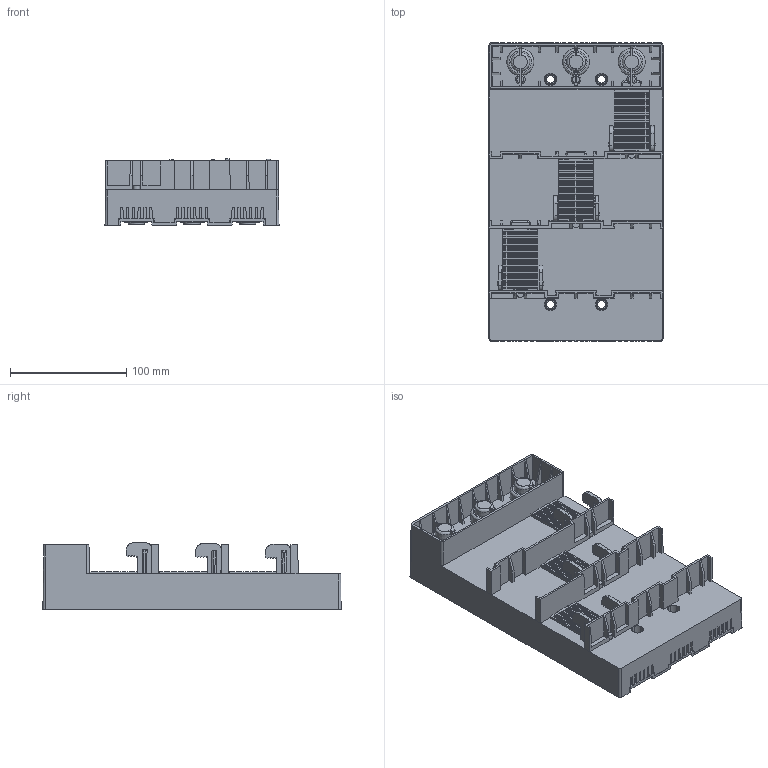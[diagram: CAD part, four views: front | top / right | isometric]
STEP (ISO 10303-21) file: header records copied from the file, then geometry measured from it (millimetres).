
FILE_DESCRIPTION (( 'STEP AP203' ), '1' );
FILE_NAME ('55014.STEP', '2021-08-27T00:39:46', ( '' ), ( '' ), 'SwSTEP 2.0', 'SolidWorks 2017', '' );
FILE_SCHEMA (( 'CONFIG_CONTROL_DESIGN' ));
Products named in the file (2): 55014
Bounding box: 150.01 x 257.01 x 57.44 mm (x, y, z)
Volume: 1164004.7 mm3; surface area: 228775 mm2
Topology: 10 solids, 72 shells, 2561 faces, 6850 edges, 4515 vertices
Faces by surface type: plane 1947, cylinder 351, bspline 162, cone 101
Full cylindrical faces by diameter (mm): 3.2 x3, 3.3 x3, 6.5 x4, 8.376 x3, 8.5 x3, 10 x5, 10.5 x3, 11.3 x4, 12 x3, 12.825 x6, 13 x4, 19 x6
Entity records: 89729 total; most frequent: CARTESIAN_POINT 28486, ORIENTED_EDGE 13368, DIRECTION 11151, EDGE_CURVE 6684, LINE 5171, VECTOR 5171, VERTEX_POINT 4475, AXIS2_PLACEMENT_3D 2990
